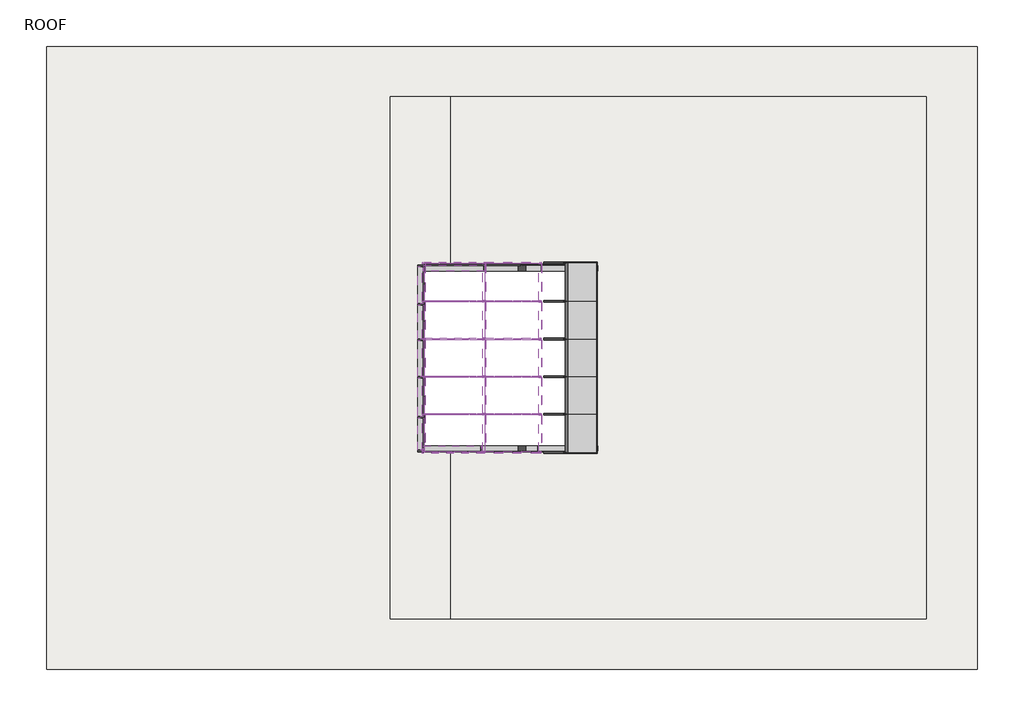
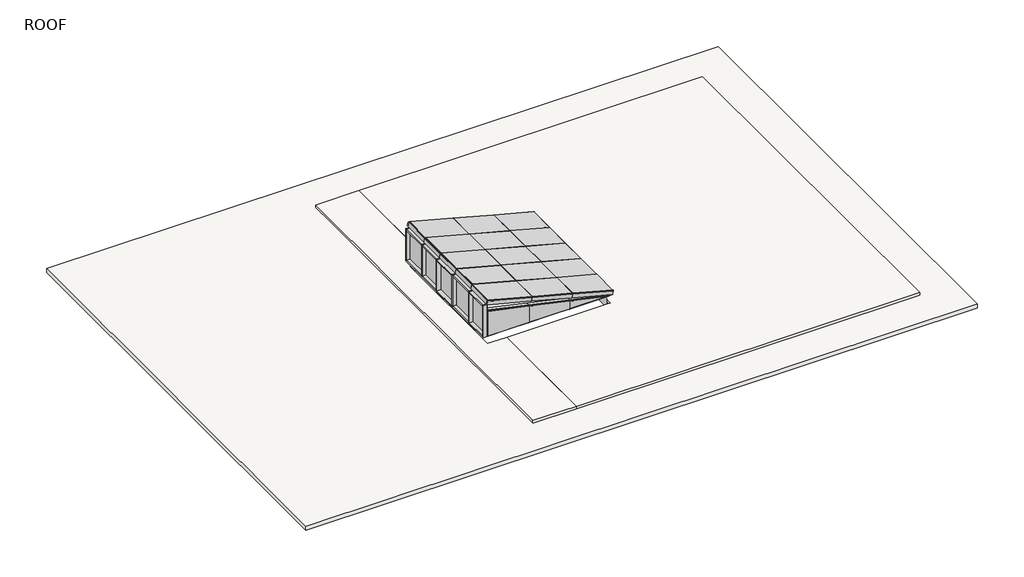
# One storey, incomplete: 73 members, 30 plates, 2 roofs, 1 slab.
"""IFC4 building model written with IfcOpenShell, lengths in millimetres."""

from ifc_helpers import new_model, si_unit, frame, origin, place, context, project, spatial, polyline, outline, extrude, transform, mapped, element, save
from components import rectangular_mullion_d7dfc533, rectangular_mullion_3b51f4c8, rectangular_mullion_2714cfa0, rectangular_mullion_174cf47c, rectangular_mullion_a48a72ba, rectangular_mullion_c04b954a, rectangular_mullion_090d5db9, rectangular_mullion_471c2e8e, rectangular_mullion_5041c5a1, rectangular_mullion_72d92243, rectangular_mullion_75a59cfc, rectangular_mullion_d6b43637, rectangular_mullion_770be2c8, rectangular_mullion_9435135d, rectangular_mullion_52c3b131, rectangular_mullion_70250a05, rectangular_mullion_7b2152c2, rectangular_mullion_dff13a2a, rectangular_mullion_6b22e22a, rectangular_mullion_3c99d2be, rectangular_mullion_39315b43, rectangular_mullion_9168f299, rectangular_mullion_25797d0b, rectangular_mullion_bcc6d2c9, rectangular_mullion_47d3db4b, rectangular_mullion_f2104aaf, rectangular_mullion_8bc0198a, rectangular_mullion_b953cf81, rectangular_mullion_a3971e02, rectangular_mullion_6e50a142, rectangular_mullion_1dcdddb2, rectangular_mullion_462ec1b4, rectangular_mullion_9d721f76, rectangular_mullion_58bc6a44, rectangular_mullion_1008c914, rectangular_mullion_0d3e171c, rectangular_mullion_66dead4a, rectangular_mullion_82fb6bf8, rectangular_mullion_a33d8cd0, rectangular_mullion_39d5cb80, rectangular_mullion_8cb9c72c, rectangular_mullion_af526003, rectangular_mullion_779ff2c7, rectangular_mullion_bb15ac4e, rectangular_mullion_5aa9732d, member_f8418f2c, plate_097b6727, plate_829ba8d5, plate_46c0a22a, system_panel_glazed_f3fc53cd, system_panel_glazed_203c5cc8, system_panel_glazed_afc678b7, system_panel_glazed_d7387deb, system_panel_glazed_5c022f44, system_panel_glazed_7354c97c, system_panel_glazed_5e03f015, system_panel_glazed_cc2dea4c, system_panel_glazed_e29575fd, system_panel_glazed_f8e5df00, system_panel_glazed_2d2b32e8, system_panel_glazed_9fcf10f8, system_panel_glazed_1304c4ac, system_panel_glazed_a94a4bbf, system_panel_glazed_785aafc2, system_panel_glazed_bdd28e3d, system_panel_glazed_228430bb, system_panel_glazed_6b07ec01, system_panel_glazed_3595c73b, system_panel_glazed_9da04d51

model = new_model("IFC4")

# Units and contexts
model_context = context("Model", 3, world=origin())
ifc_project = project(units=[si_unit("LENGTHUNIT", "METRE", prefix="MILLI")], contexts=[model_context])

# Site, building, storey
site = spatial("IfcSite", under=ifc_project)
building = spatial("IfcBuilding", under=site)
storey = spatial("IfcBuildingStorey", under=building, Name="ROOF", Elevation=24155.4)

# Members
placement = place(None, origin())
rectangular_mullion_shape = rectangular_mullion_d7dfc533(model_context)
element("IfcMember", 1, ObjectType="Rectangular Mullion : 2 1/2\" x 8\" - Capless", at=placement, inside=storey, context=model_context, shape_type="MappedRepresentation", body=[
    mapped(rectangular_mullion_shape, transform((-20014.568154, -9087.3613175, 24726.9), x_axis=(0.0, 0.0, -1.0), y_axis=(0.0, -1.0, 0.0), z_axis=(-1.0, 0.0, 0.0))),
])
rectangular_mullion_2_shape = rectangular_mullion_3b51f4c8(model_context)
element("IfcMember", 2, ObjectType="Rectangular Mullion : 2 1/2\" x 8\" - Capless", at=placement, inside=storey, context=model_context, shape_type="MappedRepresentation", body=[
    mapped(rectangular_mullion_2_shape, transform((-17802.6040182, -16563.4101345, 25619.1822452), x_axis=(0.0, -1.0, 0.0), y_axis=(-0.25469056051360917, 0.0, -0.9670226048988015), z_axis=(0.9670226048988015, 0.0, -0.25469056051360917))),
])
rectangular_mullion_3_shape = rectangular_mullion_2714cfa0(model_context)
element("IfcMember", 3, ObjectType="Rectangular Mullion : 2 1/2\" x 8\" - Capless", at=placement, inside=storey, context=model_context, shape_type="MappedRepresentation", body=[
    mapped(rectangular_mullion_3_shape, transform((-22467.4849596, -9087.3613175, 24726.9), x_axis=(0.0, 0.0, -1.0), y_axis=(0.0, -1.0, 0.0), z_axis=(-1.0, 0.0, 0.0))),
])
rectangular_mullion_4_shape = rectangular_mullion_174cf47c(model_context)
element("IfcMember", 4, ObjectType="Rectangular Mullion : 2 1/2\" x 8\" - Capless", at=placement, inside=storey, context=model_context, shape_type="MappedRepresentation", body=[
    mapped(rectangular_mullion_4_shape, transform((-22467.4849596, -15164.3113175, 26593.8), x_axis=(0.0, 0.0, 1.0), y_axis=(1.0, 0.0, 0.0), z_axis=(0.0, 1.0, 0.0))),
])
rectangular_mullion_5_shape = rectangular_mullion_a48a72ba(model_context)
element("IfcMember", 5, ObjectType="Rectangular Mullion : 2 1/2\" x 8\" - Capless", at=placement, inside=storey, context=model_context, shape_type="MappedRepresentation", body=[
    mapped(rectangular_mullion_5_shape, transform((-22467.4849596, -13569.1913175, 26593.8), x_axis=(0.0, 0.0, 1.0), y_axis=(1.0, 0.0, 0.0), z_axis=(0.0, 1.0, 0.0))),
])
rectangular_mullion_6_shape = rectangular_mullion_c04b954a(model_context)
element("IfcMember", 6, ObjectType="Rectangular Mullion : 2 1/2\" x 8\" - Capless", at=placement, inside=storey, context=model_context, shape_type="MappedRepresentation", body=[
    mapped(rectangular_mullion_6_shape, transform((-22467.4849596, -12085.8313175, 26593.8), x_axis=(0.0, 0.0, 1.0), y_axis=(1.0, 0.0, 0.0), z_axis=(0.0, 1.0, 0.0))),
])
rectangular_mullion_7_shape = rectangular_mullion_090d5db9(model_context)
element("IfcMember", 7, ObjectType="Rectangular Mullion : 2 1/2\" x 8\" - Capless", at=placement, inside=storey, context=model_context, shape_type="MappedRepresentation", body=[
    mapped(rectangular_mullion_7_shape, transform((-22467.4849596, -10676.9779841, 26593.8), x_axis=(0.0, 0.0, 1.0), y_axis=(1.0, 0.0, 0.0), z_axis=(0.0, 1.0, 0.0))),
])
rectangular_mullion_8_shape = rectangular_mullion_471c2e8e(model_context)
element("IfcMember", 8, ObjectType="Rectangular Mullion : 2 1/2\" x 8\" - Capless", at=placement, inside=storey, context=model_context, shape_type="MappedRepresentation", body=[
    mapped(rectangular_mullion_8_shape, transform((-22467.4849596, -9150.8613175, 26593.8), x_axis=(0.0, 0.0, 1.0), y_axis=(1.0, 0.0, 0.0), z_axis=(0.0, 1.0, 0.0))),
])
rectangular_mullion_9_shape = rectangular_mullion_5041c5a1(model_context)
element("IfcMember", 9, ObjectType="Rectangular Mullion : 2 1/2\" x 8\" - Capless", at=placement, inside=storey, context=model_context, shape_type="MappedRepresentation", body=[
    mapped(rectangular_mullion_9_shape, transform((-22467.4849596, -15100.8113175, 24726.9), x_axis=(0.0, 0.0, -1.0), y_axis=(1.0, 0.0, 0.0), z_axis=(0.0, -1.0, 0.0))),
])
rectangular_mullion_10_shape = rectangular_mullion_72d92243(model_context)
element("IfcMember", 10, ObjectType="Rectangular Mullion : 2 1/2\" x 8\" - Capless", at=placement, inside=storey, context=model_context, shape_type="MappedRepresentation", body=[
    mapped(rectangular_mullion_10_shape, transform((-22467.4849596, -13505.6913175, 24726.9), x_axis=(0.0, 0.0, -1.0), y_axis=(1.0, 0.0, 0.0), z_axis=(0.0, -1.0, 0.0))),
])
rectangular_mullion_11_shape = rectangular_mullion_75a59cfc(model_context)
element("IfcMember", 11, ObjectType="Rectangular Mullion : 2 1/2\" x 8\" - Capless", at=placement, inside=storey, context=model_context, shape_type="MappedRepresentation", body=[
    mapped(rectangular_mullion_11_shape, transform((-22467.4849596, -12022.3313175, 24726.9), x_axis=(0.0, 0.0, -1.0), y_axis=(1.0, 0.0, 0.0), z_axis=(0.0, -1.0, 0.0))),
])
rectangular_mullion_12_shape = rectangular_mullion_d6b43637(model_context)
element("IfcMember", 12, ObjectType="Rectangular Mullion : 2 1/2\" x 8\" - Capless", at=placement, inside=storey, context=model_context, shape_type="MappedRepresentation", body=[
    mapped(rectangular_mullion_12_shape, transform((-22467.4849596, -10613.4779841, 24726.9), x_axis=(0.0, 0.0, -1.0), y_axis=(1.0, 0.0, 0.0), z_axis=(0.0, -1.0, 0.0))),
])
rectangular_mullion_13_shape = rectangular_mullion_770be2c8(model_context)
element("IfcMember", 13, ObjectType="Rectangular Mullion : 2 1/2\" x 8\" - Capless", at=placement, inside=storey, context=model_context, shape_type="MappedRepresentation", body=[
    mapped(rectangular_mullion_13_shape, transform((-22467.4849596, -16440.6613175, 24726.9), x_axis=(0.0, 0.0, -1.0), y_axis=(1.0, 0.0, 0.0), z_axis=(0.0, -1.0, 0.0))),
])
rectangular_mullion_14_shape = rectangular_mullion_9435135d(model_context)
element("IfcMember", 14, ObjectType="Rectangular Mullion : 2 1/2\" x 8\" - Capless", at=placement, inside=storey, context=model_context, shape_type="MappedRepresentation", body=[
    mapped(rectangular_mullion_14_shape, transform((-20033.1877113, -15016.6738171, 26206.6644904), x_axis=(0.0, 1.0, 0.0), y_axis=(-0.25469056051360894, 0.0, -0.9670226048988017), z_axis=(-0.9670226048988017, 0.0, 0.25469056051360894))),
])
element("IfcMember", 15, ObjectType="Rectangular Mullion : 2 1/2\" x 8\" - Capless", at=placement, inside=storey, context=model_context, shape_type="MappedRepresentation", body=[
    mapped(rectangular_mullion_14_shape, transform((-20033.1877113, -13520.8960393, 26206.6644904), x_axis=(0.0, 1.0, 0.0), y_axis=(-0.25469056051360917, 0.0, -0.9670226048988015), z_axis=(-0.9670226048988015, 0.0, 0.25469056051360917))),
])
element("IfcMember", 16, ObjectType="Rectangular Mullion : 2 1/2\" x 8\" - Capless", at=placement, inside=storey, context=model_context, shape_type="MappedRepresentation", body=[
    mapped(rectangular_mullion_14_shape, transform((-20033.1877113, -12025.1182615, 26206.6644904), x_axis=(0.0, 1.0, 0.0), y_axis=(-0.25469056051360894, 0.0, -0.9670226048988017), z_axis=(-0.9670226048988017, 0.0, 0.25469056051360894))),
])
element("IfcMember", 17, ObjectType="Rectangular Mullion : 2 1/2\" x 8\" - Capless", at=placement, inside=storey, context=model_context, shape_type="MappedRepresentation", body=[
    mapped(rectangular_mullion_14_shape, transform((-20033.1877113, -10529.3404837, 26206.6644904), x_axis=(0.0, 1.0, 0.0), y_axis=(-0.25469056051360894, 0.0, -0.9670226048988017), z_axis=(-0.9670226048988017, 0.0, 0.25469056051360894))),
])
rectangular_mullion_15_shape = rectangular_mullion_52c3b131(model_context)
element("IfcMember", 18, ObjectType="Rectangular Mullion : 2 1/2\" x 8\" - Capless", at=placement, inside=storey, context=model_context, shape_type="MappedRepresentation", body=[
    mapped(rectangular_mullion_15_shape, transform((-17802.6040182, -15016.6738171, 25619.1822452), x_axis=(0.0, 1.0, 0.0), y_axis=(-0.2546905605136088, 0.0, -0.9670226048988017), z_axis=(-0.9670226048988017, 0.0, 0.2546905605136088))),
])
element("IfcMember", 19, ObjectType="Rectangular Mullion : 2 1/2\" x 8\" - Capless", at=placement, inside=storey, context=model_context, shape_type="MappedRepresentation", body=[
    mapped(rectangular_mullion_15_shape, transform((-17802.6040182, -13520.8960393, 25619.1822452), x_axis=(0.0, 1.0, 0.0), y_axis=(-0.254690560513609, 0.0, -0.9670226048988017), z_axis=(-0.9670226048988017, 0.0, 0.254690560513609))),
])
element("IfcMember", 20, ObjectType="Rectangular Mullion : 2 1/2\" x 8\" - Capless", at=placement, inside=storey, context=model_context, shape_type="MappedRepresentation", body=[
    mapped(rectangular_mullion_15_shape, transform((-17802.6040182, -12025.1182615, 25619.1822452), x_axis=(0.0, 1.0, 0.0), y_axis=(-0.25469056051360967, 0.0, -0.9670226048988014), z_axis=(-0.9670226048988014, 0.0, 0.25469056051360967))),
])
element("IfcMember", 21, ObjectType="Rectangular Mullion : 2 1/2\" x 8\" - Capless", at=placement, inside=storey, context=model_context, shape_type="MappedRepresentation", body=[
    mapped(rectangular_mullion_15_shape, transform((-17802.6040182, -10529.3404837, 25619.1822452), x_axis=(0.0, 1.0, 0.0), y_axis=(-0.2546905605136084, 0.0, -0.9670226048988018), z_axis=(-0.9670226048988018, 0.0, 0.2546905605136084))),
])
element("IfcMember", 22, ObjectType="Rectangular Mullion : 2 1/2\" x 8\" - Capless", at=placement, inside=storey, context=model_context, shape_type="MappedRepresentation", body=[
    mapped(rectangular_mullion_2_shape, transform((-15572.0203251, -16563.4101345, 25031.7), x_axis=(0.0, -1.0, 0.0), y_axis=(-0.25469056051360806, 0.0, -0.9670226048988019), z_axis=(0.9670226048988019, 0.0, -0.25469056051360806))),
])
rectangular_mullion_16_shape = rectangular_mullion_70250a05(model_context)
element("IfcMember", 23, ObjectType="Rectangular Mullion : 2 1/2\" x 8\" - Capless", at=placement, inside=storey, context=model_context, shape_type="MappedRepresentation", body=[
    mapped(rectangular_mullion_16_shape, transform((-20033.1877113, -10497.5904837, 26206.6644904), x_axis=(-0.9670226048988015, 0.0, 0.254690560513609), y_axis=(-0.254690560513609, 0.0, -0.9670226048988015), z_axis=(0.0, -1.0, 0.0))),
])
element("IfcMember", 24, ObjectType="Rectangular Mullion : 2 1/2\" x 8\" - Capless", at=placement, inside=storey, context=model_context, shape_type="MappedRepresentation", body=[
    mapped(rectangular_mullion_16_shape, transform((-17802.6040182, -10497.5904837, 25619.1822452), x_axis=(-0.9670226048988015, 0.0, 0.254690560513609), y_axis=(-0.254690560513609, 0.0, -0.9670226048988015), z_axis=(0.0, -1.0, 0.0))),
])
rectangular_mullion_17_shape = rectangular_mullion_7b2152c2(model_context)
element("IfcMember", 25, ObjectType="Rectangular Mullion : 2 1/2\" x 8\" - Capless", at=placement, inside=storey, context=model_context, shape_type="MappedRepresentation", body=[
    mapped(rectangular_mullion_17_shape, transform((-22467.4849596, -10529.3404837, 26847.8), x_axis=(-0.9670226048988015, 0.0, 0.254690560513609), y_axis=(-0.254690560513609, 0.0, -0.9670226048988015), z_axis=(0.0, -1.0, 0.0))),
])
rectangular_mullion_18_shape = rectangular_mullion_dff13a2a(model_context)
element("IfcMember", 26, ObjectType="Rectangular Mullion : 2 1/2\" x 8\" - Capless", at=placement, inside=storey, context=model_context, shape_type="MappedRepresentation", body=[
    mapped(rectangular_mullion_18_shape, transform((-15572.0203251, -9034.9738171, 25031.7), x_axis=(0.9670226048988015, 0.0, -0.254690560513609), y_axis=(-0.254690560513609, 0.0, -0.9670226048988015), z_axis=(0.0, 1.0, 0.0))),
])
rectangular_mullion_19_shape = rectangular_mullion_6b22e22a(model_context)
element("IfcMember", 27, ObjectType="Rectangular Mullion : 2 1/2\" x 8\" - Capless", at=placement, inside=storey, context=model_context, shape_type="MappedRepresentation", body=[
    mapped(rectangular_mullion_19_shape, transform((-17802.6040182, -8971.4738171, 25619.1822452), x_axis=(0.0, 1.0, 0.0), y_axis=(-0.25469056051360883, 0.0, -0.9670226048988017), z_axis=(-0.9670226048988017, 0.0, 0.25469056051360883))),
])
element("IfcMember", 28, ObjectType="Rectangular Mullion : 2 1/2\" x 8\" - Capless", at=placement, inside=storey, context=model_context, shape_type="MappedRepresentation", body=[
    mapped(rectangular_mullion_19_shape, transform((-20033.1877113, -8971.4738171, 26206.6644904), x_axis=(0.0, 1.0, 0.0), y_axis=(-0.25469056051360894, 0.0, -0.9670226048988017), z_axis=(-0.9670226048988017, 0.0, 0.25469056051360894))),
])
rectangular_mullion_20_shape = rectangular_mullion_3c99d2be(model_context)
element("IfcMember", 29, ObjectType="Rectangular Mullion : 2 1/2\" x 8\" - Capless", at=placement, inside=storey, context=model_context, shape_type="MappedRepresentation", body=[
    mapped(rectangular_mullion_20_shape, transform((-20046.318154, -9087.3613175, 24726.9), x_axis=(1.0, 0.0, 0.0), y_axis=(0.0, -1.0, 0.0), z_axis=(0.0, 0.0, -1.0))),
])
rectangular_mullion_21_shape = rectangular_mullion_39315b43(model_context)
element("IfcMember", 30, ObjectType="Rectangular Mullion : 2 1/2\" x 8\" - Capless", at=placement, inside=storey, context=model_context, shape_type="MappedRepresentation", body=[
    mapped(rectangular_mullion_21_shape, transform((-17805.6765568, -9087.3613175, 24726.9), x_axis=(1.0, 0.0, 0.0), y_axis=(0.0, -1.0, 0.0), z_axis=(0.0, 0.0, -1.0))),
])
rectangular_mullion_22_shape = rectangular_mullion_9168f299(model_context)
element("IfcMember", 31, ObjectType="Rectangular Mullion : 2 1/2\" x 8\" - Capless", at=placement, inside=storey, context=model_context, shape_type="MappedRepresentation", body=[
    mapped(rectangular_mullion_22_shape, transform((-17773.9265568, -9087.3613175, 24726.9), x_axis=(0.0, 0.0, -1.0), y_axis=(0.0, -1.0, 0.0), z_axis=(-1.0, 0.0, 0.0))),
])
rectangular_mullion_23_shape = rectangular_mullion_25797d0b(model_context)
element("IfcMember", 32, ObjectType="Rectangular Mullion : 2 1/2\" x 8\" - Capless", at=placement, inside=storey, context=model_context, shape_type="MappedRepresentation", body=[
    mapped(rectangular_mullion_23_shape, transform((-17805.6765568, -9087.3613175, 25219.5525683), x_axis=(0.21474179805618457, 0.0, 0.976670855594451), y_axis=(0.0, -1.0, 0.0), z_axis=(0.9766708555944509, 0.0, -0.21474179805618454))),
])
rectangular_mullion_24_shape = rectangular_mullion_bcc6d2c9(model_context)
element("IfcMember", 33, ObjectType="Rectangular Mullion : 2 1/2\" x 8\" - Capless", at=placement, inside=storey, context=model_context, shape_type="MappedRepresentation", body=[
    mapped(rectangular_mullion_24_shape, transform((-20046.318154, -9087.3613175, 25712.2051366), x_axis=(0.2147417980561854, 0.0, 0.9766708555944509), y_axis=(0.0, -1.0, 0.0), z_axis=(0.9766708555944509, 0.0, -0.2147417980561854))),
])
rectangular_mullion_25_shape = rectangular_mullion_47d3db4b(model_context)
element("IfcMember", 34, ObjectType="Rectangular Mullion : 2 1/2\" x 8\" - Capless", at=placement, inside=storey, context=model_context, shape_type="MappedRepresentation", body=[
    mapped(rectangular_mullion_25_shape, transform((-15565.0349596, -9087.3613175, 24726.9), x_axis=(0.21474179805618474, 0.0, 0.9766708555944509), y_axis=(0.0, -1.0, 0.0), z_axis=(0.9766708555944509, 0.0, -0.21474179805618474))),
])
rectangular_mullion_26_shape = rectangular_mullion_f2104aaf(model_context)
element("IfcMember", 35, ObjectType="Rectangular Mullion : 2 1/2\" x 8\" - Capless", at=placement, inside=storey, context=model_context, shape_type="MappedRepresentation", body=[
    mapped(rectangular_mullion_26_shape, transform((-20033.1877113, -11993.3682615, 26206.6644904), x_axis=(-0.9670226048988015, 0.0, 0.254690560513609), y_axis=(-0.254690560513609, 0.0, -0.9670226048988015), z_axis=(0.0, -1.0, 0.0))),
])
element("IfcMember", 36, ObjectType="Rectangular Mullion : 2 1/2\" x 8\" - Capless", at=placement, inside=storey, context=model_context, shape_type="MappedRepresentation", body=[
    mapped(rectangular_mullion_26_shape, transform((-17802.6040182, -11993.3682615, 25619.1822452), x_axis=(-0.9670226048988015, 0.0, 0.254690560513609), y_axis=(-0.254690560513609, 0.0, -0.9670226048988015), z_axis=(0.0, -1.0, 0.0))),
])
element("IfcMember", 37, ObjectType="Rectangular Mullion : 2 1/2\" x 8\" - Capless", at=placement, inside=storey, context=model_context, shape_type="MappedRepresentation", body=[
    mapped(rectangular_mullion_26_shape, transform((-20033.1877113, -13489.1460393, 26206.6644904), x_axis=(-0.9670226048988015, 0.0, 0.254690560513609), y_axis=(-0.254690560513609, 0.0, -0.9670226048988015), z_axis=(0.0, -1.0, 0.0))),
])
element("IfcMember", 38, ObjectType="Rectangular Mullion : 2 1/2\" x 8\" - Capless", at=placement, inside=storey, context=model_context, shape_type="MappedRepresentation", body=[
    mapped(rectangular_mullion_26_shape, transform((-17802.6040182, -13489.1460393, 25619.1822452), x_axis=(-0.9670226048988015, 0.0, 0.254690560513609), y_axis=(-0.254690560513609, 0.0, -0.9670226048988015), z_axis=(0.0, -1.0, 0.0))),
])
element("IfcMember", 39, ObjectType="Rectangular Mullion : 2 1/2\" x 8\" - Capless", at=placement, inside=storey, context=model_context, shape_type="MappedRepresentation", body=[
    mapped(rectangular_mullion_26_shape, transform((-20033.1877113, -14984.9238171, 26206.6644904), x_axis=(-0.9670226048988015, 0.0, 0.254690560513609), y_axis=(-0.254690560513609, 0.0, -0.9670226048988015), z_axis=(0.0, -1.0, 0.0))),
])
element("IfcMember", 40, ObjectType="Rectangular Mullion : 2 1/2\" x 8\" - Capless", at=placement, inside=storey, context=model_context, shape_type="MappedRepresentation", body=[
    mapped(rectangular_mullion_26_shape, transform((-17802.6040182, -14984.9238171, 25619.1822452), x_axis=(-0.9670226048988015, 0.0, 0.254690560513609), y_axis=(-0.254690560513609, 0.0, -0.9670226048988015), z_axis=(0.0, -1.0, 0.0))),
])
rectangular_mullion_27_shape = rectangular_mullion_8bc0198a(model_context)
element("IfcMember", 41, ObjectType="Rectangular Mullion : 2 1/2\" x 8\" - Capless", at=placement, inside=storey, context=model_context, shape_type="MappedRepresentation", body=[
    mapped(rectangular_mullion_27_shape, transform((-22467.4849596, -12025.1182615, 26847.8), x_axis=(-0.9670226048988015, 0.0, 0.254690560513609), y_axis=(-0.254690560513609, 0.0, -0.9670226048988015), z_axis=(0.0, -1.0, 0.0))),
])
element("IfcMember", 42, ObjectType="Rectangular Mullion : 2 1/2\" x 8\" - Capless", at=placement, inside=storey, context=model_context, shape_type="MappedRepresentation", body=[
    mapped(rectangular_mullion_27_shape, transform((-22467.4849596, -13520.8960393, 26847.8), x_axis=(-0.9670226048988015, 0.0, 0.254690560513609), y_axis=(-0.254690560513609, 0.0, -0.9670226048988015), z_axis=(0.0, -1.0, 0.0))),
])
element("IfcMember", 43, ObjectType="Rectangular Mullion : 2 1/2\" x 8\" - Capless", at=placement, inside=storey, context=model_context, shape_type="MappedRepresentation", body=[
    mapped(rectangular_mullion_27_shape, transform((-22467.4849596, -15016.6738171, 26847.8), x_axis=(-0.9670226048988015, 0.0, 0.254690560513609), y_axis=(-0.254690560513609, 0.0, -0.9670226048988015), z_axis=(0.0, -1.0, 0.0))),
])
rectangular_mullion_28_shape = rectangular_mullion_b953cf81(model_context)
element("IfcMember", 44, ObjectType="Rectangular Mullion : 2 1/2\" x 8\" - Capless", at=placement, inside=storey, context=model_context, shape_type="MappedRepresentation", body=[
    mapped(rectangular_mullion_28_shape, transform((-15572.0203251, -13520.8960393, 25031.7), x_axis=(0.9670226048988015, 0.0, -0.254690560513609), y_axis=(-0.254690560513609, 0.0, -0.9670226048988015), z_axis=(0.0, 1.0, 0.0))),
])
element("IfcMember", 45, ObjectType="Rectangular Mullion : 2 1/2\" x 8\" - Capless", at=placement, inside=storey, context=model_context, shape_type="MappedRepresentation", body=[
    mapped(rectangular_mullion_28_shape, transform((-15572.0203251, -12025.1182615, 25031.7), x_axis=(0.9670226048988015, 0.0, -0.254690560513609), y_axis=(-0.254690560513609, 0.0, -0.9670226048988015), z_axis=(0.0, 1.0, 0.0))),
])
element("IfcMember", 46, ObjectType="Rectangular Mullion : 2 1/2\" x 8\" - Capless", at=placement, inside=storey, context=model_context, shape_type="MappedRepresentation", body=[
    mapped(rectangular_mullion_28_shape, transform((-15572.0203251, -10529.3404837, 25031.7), x_axis=(0.9670226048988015, 0.0, -0.254690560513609), y_axis=(-0.254690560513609, 0.0, -0.9670226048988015), z_axis=(0.0, 1.0, 0.0))),
])
rectangular_mullion_29_shape = rectangular_mullion_a3971e02(model_context)
element("IfcMember", 47, ObjectType="Rectangular Mullion : 2 1/2\" x 8\" - Capless", at=placement, inside=storey, context=model_context, shape_type="MappedRepresentation", body=[
    mapped(rectangular_mullion_29_shape, transform((-22467.4849596, -10645.2279841, 24726.9), x_axis=(0.0, 1.0, 0.0), y_axis=(1.0, 0.0, 0.0), z_axis=(0.0, 0.0, -1.0))),
])
element("IfcMember", 48, ObjectType="Rectangular Mullion : 2 1/2\" x 8\" - Capless", at=placement, inside=storey, context=model_context, shape_type="MappedRepresentation", body=[
    mapped(rectangular_mullion_29_shape, transform((-22467.4849596, -12054.0813175, 24726.9), x_axis=(0.0, 1.0, 0.0), y_axis=(1.0, 0.0, 0.0), z_axis=(0.0, 0.0, -1.0))),
])
element("IfcMember", 49, ObjectType="Rectangular Mullion : 2 1/2\" x 8\" - Capless", at=placement, inside=storey, context=model_context, shape_type="MappedRepresentation", body=[
    mapped(rectangular_mullion_29_shape, transform((-22467.4849596, -13537.4413175, 24726.9), x_axis=(0.0, 1.0, 0.0), y_axis=(1.0, 0.0, 0.0), z_axis=(0.0, 0.0, -1.0))),
])
element("IfcMember", 50, ObjectType="Rectangular Mullion : 2 1/2\" x 8\" - Capless", at=placement, inside=storey, context=model_context, shape_type="MappedRepresentation", body=[
    mapped(rectangular_mullion_29_shape, transform((-22467.4849596, -15132.5613175, 24726.9), x_axis=(0.0, 1.0, 0.0), y_axis=(1.0, 0.0, 0.0), z_axis=(0.0, 0.0, -1.0))),
])
rectangular_mullion_30_shape = rectangular_mullion_6e50a142(model_context)
element("IfcMember", 51, ObjectType="Rectangular Mullion : 2 1/2\" x 8\" - Capless", at=placement, inside=storey, context=model_context, shape_type="MappedRepresentation", body=[
    mapped(rectangular_mullion_30_shape, transform((-22467.4849596, -16504.1613175, 26593.8), x_axis=(0.0, -1.0, 0.0), y_axis=(1.0, 0.0, 0.0), z_axis=(0.0, 0.0, 1.0))),
])
rectangular_mullion_31_shape = rectangular_mullion_1dcdddb2(model_context)
element("IfcMember", 52, ObjectType="Rectangular Mullion : 2 1/2\" x 8\" - Capless", at=placement, inside=storey, context=model_context, shape_type="MappedRepresentation", body=[
    mapped(rectangular_mullion_31_shape, transform((-22467.4849596, -9087.3613175, 24726.9), x_axis=(0.0, 1.0, 0.0), y_axis=(1.0, 0.0, 0.0), z_axis=(0.0, 0.0, -1.0))),
])
rectangular_mullion_32_shape = rectangular_mullion_462ec1b4(model_context)
element("IfcMember", 53, ObjectType="Rectangular Mullion : 2 1/2\" x 8\" - Capless", at=placement, inside=storey, context=model_context, shape_type="MappedRepresentation", body=[
    mapped(rectangular_mullion_32_shape, transform((-17913.1246759, -16504.1613175, 24726.9), x_axis=(0.0, 0.0, -1.0), y_axis=(0.0, -1.0, 0.0), z_axis=(-1.0, 0.0, 0.0))),
])
rectangular_mullion_33_shape = rectangular_mullion_9d721f76(model_context)
element("IfcMember", 54, ObjectType="Rectangular Mullion : 2 1/2\" x 8\" - Capless", at=placement, inside=storey, context=model_context, shape_type="MappedRepresentation", body=[
    mapped(rectangular_mullion_33_shape, transform((-20179.5366035, -16504.1613175, 24726.9), x_axis=(1.0, 0.0, 0.0), y_axis=(0.0, -1.0, 0.0), z_axis=(0.0, 0.0, -1.0))),
])
rectangular_mullion_34_shape = rectangular_mullion_58bc6a44(model_context)
element("IfcMember", 55, ObjectType="Rectangular Mullion : 2 1/2\" x 8\" - Capless", at=placement, inside=storey, context=model_context, shape_type="MappedRepresentation", body=[
    mapped(rectangular_mullion_34_shape, transform((-20179.5366035, -16504.1613175, 25741.4960376), x_axis=(0.21474179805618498, 0.0, 0.9766708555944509), y_axis=(0.0, -1.0, 0.0), z_axis=(0.9766708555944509, 0.0, -0.21474179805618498))),
])
rectangular_mullion_35_shape = rectangular_mullion_1008c914(model_context)
element("IfcMember", 56, ObjectType="Rectangular Mullion : 2 1/2\" x 8\" - Capless", at=placement, inside=storey, context=model_context, shape_type="MappedRepresentation", body=[
    mapped(rectangular_mullion_35_shape, transform((-17944.8746759, -16504.1613175, 25250.1582265), x_axis=(0.2147417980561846, 0.0, 0.976670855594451), y_axis=(0.0, -1.0, 0.0), z_axis=(0.9766708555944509, 0.0, -0.21474179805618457))),
])
rectangular_mullion_36_shape = rectangular_mullion_0d3e171c(model_context)
element("IfcMember", 57, ObjectType="Rectangular Mullion : 2 1/2\" x 8\" - Capless", at=placement, inside=storey, context=model_context, shape_type="MappedRepresentation", body=[
    mapped(rectangular_mullion_36_shape, transform((-15565.0349596, -16504.1613175, 24726.9), x_axis=(0.21474179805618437, 0.0, 0.976670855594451), y_axis=(0.0, -1.0, 0.0), z_axis=(0.9766708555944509, 0.0, -0.21474179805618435))),
])
rectangular_mullion_37_shape = rectangular_mullion_66dead4a(model_context)
element("IfcMember", 58, ObjectType="Rectangular Mullion : 2 1/2\" x 8\" - Capless", at=placement, inside=storey, context=model_context, shape_type="MappedRepresentation", body=[
    mapped(rectangular_mullion_37_shape, transform((-20147.7866035, -16504.1613175, 24726.9), x_axis=(0.0, 0.0, -1.0), y_axis=(0.0, -1.0, 0.0), z_axis=(-1.0, 0.0, 0.0))),
])
rectangular_mullion_38_shape = rectangular_mullion_82fb6bf8(model_context)
element("IfcMember", 59, ObjectType="Rectangular Mullion : 2 1/2\" x 8\" - Capless", at=placement, inside=storey, context=model_context, shape_type="MappedRepresentation", body=[
    mapped(rectangular_mullion_38_shape, transform((-22467.4849596, -16504.1613175, 24726.9), x_axis=(0.0, 0.0, -1.0), y_axis=(0.0, -1.0, 0.0), z_axis=(-1.0, 0.0, 0.0))),
])
rectangular_mullion_39_shape = rectangular_mullion_a33d8cd0(model_context)
element("IfcMember", 60, ObjectType="Rectangular Mullion : 2 1/2\" x 8\" - Capless", at=placement, inside=storey, context=model_context, shape_type="MappedRepresentation", body=[
    mapped(rectangular_mullion_39_shape, transform((-20033.1877113, -16499.9101345, 26206.6644904), x_axis=(-0.9670226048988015, 0.0, 0.254690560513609), y_axis=(-0.254690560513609, 0.0, -0.9670226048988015), z_axis=(0.0, -1.0, 0.0))),
])
element("IfcMember", 61, ObjectType="Rectangular Mullion : 2 1/2\" x 8\" - Capless", at=placement, inside=storey, context=model_context, shape_type="MappedRepresentation", body=[
    mapped(rectangular_mullion_39_shape, transform((-17802.6040182, -16499.9101345, 25619.1822452), x_axis=(-0.9670226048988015, 0.0, 0.254690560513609), y_axis=(-0.254690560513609, 0.0, -0.9670226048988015), z_axis=(0.0, -1.0, 0.0))),
])
rectangular_mullion_40_shape = rectangular_mullion_39d5cb80(model_context)
element("IfcMember", 62, ObjectType="Rectangular Mullion : 2 1/2\" x 8\" - Capless", at=placement, inside=storey, context=model_context, shape_type="MappedRepresentation", body=[
    mapped(rectangular_mullion_40_shape, transform((-22467.4849596, -16499.9101345, 26847.8), x_axis=(-0.9670226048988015, 0.0, 0.254690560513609), y_axis=(-0.254690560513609, 0.0, -0.9670226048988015), z_axis=(0.0, -1.0, 0.0))),
])
rectangular_mullion_41_shape = rectangular_mullion_8cb9c72c(model_context)
element("IfcMember", 63, ObjectType="Rectangular Mullion : 2 1/2\" x 8\" - Capless", at=placement, inside=storey, context=model_context, shape_type="MappedRepresentation", body=[
    mapped(rectangular_mullion_41_shape, transform((-15572.0203251, -15016.6738171, 25031.7), x_axis=(0.9670226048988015, 0.0, -0.254690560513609), y_axis=(-0.254690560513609, 0.0, -0.9670226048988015), z_axis=(0.0, 1.0, 0.0))),
])
rectangular_mullion_42_shape = rectangular_mullion_af526003(model_context)
element("IfcMember", 64, ObjectType="Rectangular Mullion : 2 1/2\" x 8\" - Capless", at=placement, inside=storey, context=model_context, shape_type="MappedRepresentation", body=[
    mapped(rectangular_mullion_42_shape, transform((-22406.0790242, -15016.6738171, 26831.6271494), x_axis=(0.0, 1.0, 0.0), y_axis=(-0.25469056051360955, 0.0, -0.9670226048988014), z_axis=(-0.9670226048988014, 0.0, 0.25469056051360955))),
])
element("IfcMember", 65, ObjectType="Rectangular Mullion : 2 1/2\" x 8\" - Capless", at=placement, inside=storey, context=model_context, shape_type="MappedRepresentation", body=[
    mapped(rectangular_mullion_42_shape, transform((-22406.0790242, -13520.8960393, 26831.6271494), x_axis=(0.0, 1.0, 0.0), y_axis=(-0.2546905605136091, 0.0, -0.9670226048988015), z_axis=(-0.9670226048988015, 0.0, 0.2546905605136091))),
])
element("IfcMember", 66, ObjectType="Rectangular Mullion : 2 1/2\" x 8\" - Capless", at=placement, inside=storey, context=model_context, shape_type="MappedRepresentation", body=[
    mapped(rectangular_mullion_42_shape, transform((-22406.0790242, -12025.1182615, 26831.6271494), x_axis=(0.0, 1.0, 0.0), y_axis=(-0.2546905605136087, 0.0, -0.9670226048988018), z_axis=(-0.9670226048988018, 0.0, 0.2546905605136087))),
])
element("IfcMember", 67, ObjectType="Rectangular Mullion : 2 1/2\" x 8\" - Capless", at=placement, inside=storey, context=model_context, shape_type="MappedRepresentation", body=[
    mapped(rectangular_mullion_42_shape, transform((-22406.0790242, -10529.3404837, 26831.6271494), x_axis=(0.0, 1.0, 0.0), y_axis=(-0.2546905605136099, 0.0, -0.9670226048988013), z_axis=(-0.9670226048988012, 0.0, 0.25469056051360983))),
])
rectangular_mullion_43_shape = rectangular_mullion_779ff2c7(model_context)
element("IfcMember", 68, ObjectType="Rectangular Mullion : 2 1/2\" x 8\" - Capless", at=placement, inside=storey, context=model_context, shape_type="MappedRepresentation", body=[
    mapped(rectangular_mullion_43_shape, transform((-20033.1877113, -16563.4101345, 26206.6644904), x_axis=(0.0, -1.0, 0.0), y_axis=(-0.2546905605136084, 0.0, -0.9670226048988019), z_axis=(0.9670226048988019, 0.0, -0.2546905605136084))),
])
rectangular_mullion_44_shape = rectangular_mullion_bb15ac4e(model_context)
element("IfcMember", 69, ObjectType="Rectangular Mullion : 2 1/2\" x 8\" - Capless", at=placement, inside=storey, context=model_context, shape_type="MappedRepresentation", body=[
    mapped(rectangular_mullion_44_shape, transform((-22467.4849596, -8971.4738171, 26847.8), x_axis=(0.0, 1.0, 0.0), y_axis=(-0.2546905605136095, 0.0, -0.9670226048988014), z_axis=(-0.9670226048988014, 0.0, 0.2546905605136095))),
])
rectangular_mullion_45_shape = rectangular_mullion_5aa9732d(model_context)
element("IfcMember", 70, ObjectType="Rectangular Mullion : 2 1/2\" x 8\" - Capless", at=placement, inside=storey, context=model_context, shape_type="MappedRepresentation", body=[
    mapped(rectangular_mullion_45_shape, transform((-17944.8746759, -16504.1613175, 24726.9), x_axis=(1.0, 0.0, 0.0), y_axis=(0.0, -1.0, 0.0), z_axis=(0.0, 0.0, -1.0))),
])
member_shape = member_f8418f2c(model_context)
element("IfcMember", 71, ObjectType="Rectangular Mullion : 1\" Reveal", at=placement, inside=storey, context=model_context, shape_type="MappedRepresentation", body=[
    mapped(member_shape, transform((-15774.2156198, -10907.2483047, 23926.8), x_axis=(0.0, 1.0, 0.0), y_axis=(1.0, 0.0, 0.0), z_axis=(0.0, 0.0, -1.0))),
])
element("IfcMember", 72, ObjectType="Rectangular Mullion : 1\" Reveal", at=placement, inside=storey, context=model_context, shape_type="MappedRepresentation", body=[
    mapped(member_shape, transform((-15774.2156198, -12764.9793892, 23926.8), x_axis=(0.0, 1.0, 0.0), y_axis=(1.0, 0.0, 0.0), z_axis=(0.0, 0.0, -1.0))),
])
element("IfcMember", 73, ObjectType="Rectangular Mullion : 1\" Reveal", at=placement, inside=storey, context=model_context, shape_type="MappedRepresentation", body=[
    mapped(member_shape, transform((-15774.2156198, -14622.7104737, 23926.8), x_axis=(0.0, 1.0, 0.0), y_axis=(1.0, 0.0, 0.0), z_axis=(0.0, 0.0, -1.0))),
])

# Plates
plate_shape = plate_097b6727(model_context)
element("IfcPlate", 74, ObjectType="System Panel : 1/4\" Steel", at=placement, inside=storey, context=model_context, shape_type="MappedRepresentation", body=[
    mapped(plate_shape, transform((-15774.2156198, -9994.2577622, 23926.8), x_axis=(0.0, 1.0, 0.0), y_axis=(-1.0, 0.0, 0.0), z_axis=(0.0, 0.0, 1.0))),
])
plate_2_shape = plate_829ba8d5(model_context)
element("IfcPlate", 75, ObjectType="System Panel : 1/4\" Steel", at=placement, inside=storey, context=model_context, shape_type="MappedRepresentation", body=[
    mapped(plate_2_shape, transform((-15774.2156198, -11836.1138469, 23926.8), x_axis=(0.0, 1.0, 0.0), y_axis=(-1.0, 0.0, 0.0), z_axis=(0.0, 0.0, 1.0))),
])
element("IfcPlate", 76, ObjectType="System Panel : 1/4\" Steel", at=placement, inside=storey, context=model_context, shape_type="MappedRepresentation", body=[
    mapped(plate_2_shape, transform((-15774.2156198, -13693.8449314, 23926.8), x_axis=(0.0, 1.0, 0.0), y_axis=(-1.0, 0.0, 0.0), z_axis=(0.0, 0.0, 1.0))),
])
plate_3_shape = plate_46c0a22a(model_context)
element("IfcPlate", 77, ObjectType="System Panel : 1/4\" Steel", at=placement, inside=storey, context=model_context, shape_type="MappedRepresentation", body=[
    mapped(plate_3_shape, transform((-15774.2156198, -15455.4858956, 23926.8), x_axis=(0.0, 1.0, 0.0), y_axis=(-1.0, 0.0, 0.0), z_axis=(0.0, 0.0, 1.0))),
])
system_panel_glazed_shape = system_panel_glazed_f3fc53cd(model_context)
element("IfcPlate", 78, ObjectType="System Panel : Glazed", at=placement, inside=storey, context=model_context, shape_type="MappedRepresentation", body=[
    mapped(system_panel_glazed_shape, transform((-15611.9341831, -9766.2821504, 25042.2123529), x_axis=(0.0, 1.0, 0.0), y_axis=(-0.254690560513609, 0.0, -0.9670226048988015), z_axis=(-0.9670226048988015, 0.0, 0.254690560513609))),
])
system_panel_glazed_2_shape = system_panel_glazed_203c5cc8(model_context)
element("IfcPlate", 79, ObjectType="System Panel : Glazed", at=placement, inside=storey, context=model_context, shape_type="MappedRepresentation", body=[
    mapped(system_panel_glazed_2_shape, transform((-17811.8149085, -9766.2821504, 25621.6081728), x_axis=(0.0, 1.0, 0.0), y_axis=(-0.254690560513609, 0.0, -0.9670226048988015), z_axis=(-0.9670226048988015, 0.0, 0.254690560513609))),
])
system_panel_glazed_3_shape = system_panel_glazed_afc678b7(model_context)
element("IfcPlate", 80, ObjectType="System Panel : Glazed", at=placement, inside=storey, context=model_context, shape_type="MappedRepresentation", body=[
    mapped(system_panel_glazed_3_shape, transform((-21261.6640568, -9087.3613175, 24768.175), x_axis=(1.0, 0.0, 0.0), y_axis=(0.0, 1.0, 0.0), z_axis=(0.0, 0.0, 1.0))),
])
system_panel_glazed_4_shape = system_panel_glazed_d7387deb(model_context)
element("IfcPlate", 81, ObjectType="System Panel : Glazed", at=placement, inside=storey, context=model_context, shape_type="MappedRepresentation", body=[
    mapped(system_panel_glazed_4_shape, transform((-18925.9973554, -9087.3613175, 24768.175), x_axis=(1.0, 0.0, 0.0), y_axis=(0.0, 1.0, 0.0), z_axis=(0.0, 0.0, 1.0))),
])
system_panel_glazed_5_shape = system_panel_glazed_5c022f44(model_context)
element("IfcPlate", 82, ObjectType="System Panel : Glazed", at=placement, inside=storey, context=model_context, shape_type="MappedRepresentation", body=[
    mapped(system_panel_glazed_5_shape, transform((-16870.5588129, -9087.3613175, 24768.175), x_axis=(1.0, 0.0, 0.0), y_axis=(0.0, 1.0, 0.0), z_axis=(0.0, 0.0, 1.0))),
])
system_panel_glazed_6_shape = system_panel_glazed_7354c97c(model_context)
element("IfcPlate", 83, ObjectType="System Panel : Glazed", at=placement, inside=storey, context=model_context, shape_type="MappedRepresentation", body=[
    mapped(system_panel_glazed_6_shape, transform((-15611.9341831, -11277.2293726, 25042.2123529), x_axis=(0.0, 1.0, 0.0), y_axis=(-0.254690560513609, 0.0, -0.9670226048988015), z_axis=(-0.9670226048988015, 0.0, 0.254690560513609))),
])
element("IfcPlate", 84, ObjectType="System Panel : Glazed", at=placement, inside=storey, context=model_context, shape_type="MappedRepresentation", body=[
    mapped(system_panel_glazed_6_shape, transform((-15611.9341831, -12773.0071504, 25042.2123529), x_axis=(0.0, 1.0, 0.0), y_axis=(-0.254690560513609, 0.0, -0.9670226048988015), z_axis=(-0.9670226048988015, 0.0, 0.254690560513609))),
])
element("IfcPlate", 85, ObjectType="System Panel : Glazed", at=placement, inside=storey, context=model_context, shape_type="MappedRepresentation", body=[
    mapped(system_panel_glazed_6_shape, transform((-15611.9341831, -14268.7849282, 25042.2123529), x_axis=(0.0, 1.0, 0.0), y_axis=(-0.254690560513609, 0.0, -0.9670226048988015), z_axis=(-0.9670226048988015, 0.0, 0.254690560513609))),
])
system_panel_glazed_7_shape = system_panel_glazed_5e03f015(model_context)
element("IfcPlate", 86, ObjectType="System Panel : Glazed", at=placement, inside=storey, context=model_context, shape_type="MappedRepresentation", body=[
    mapped(system_panel_glazed_7_shape, transform((-17811.8149085, -11277.2293726, 25621.6081728), x_axis=(0.0, 1.0, 0.0), y_axis=(-0.254690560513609, 0.0, -0.9670226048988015), z_axis=(-0.9670226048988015, 0.0, 0.254690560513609))),
])
element("IfcPlate", 87, ObjectType="System Panel : Glazed", at=placement, inside=storey, context=model_context, shape_type="MappedRepresentation", body=[
    mapped(system_panel_glazed_7_shape, transform((-17811.8149085, -12773.0071504, 25621.6081728), x_axis=(0.0, 1.0, 0.0), y_axis=(-0.254690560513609, 0.0, -0.9670226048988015), z_axis=(-0.9670226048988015, 0.0, 0.254690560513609))),
])
element("IfcPlate", 88, ObjectType="System Panel : Glazed", at=placement, inside=storey, context=model_context, shape_type="MappedRepresentation", body=[
    mapped(system_panel_glazed_7_shape, transform((-17811.8149085, -14268.7849282, 25621.6081728), x_axis=(0.0, 1.0, 0.0), y_axis=(-0.254690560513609, 0.0, -0.9670226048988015), z_axis=(-0.9670226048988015, 0.0, 0.254690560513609))),
])
system_panel_glazed_8_shape = system_panel_glazed_cc2dea4c(model_context)
element("IfcPlate", 89, ObjectType="System Panel : Glazed", at=placement, inside=storey, context=model_context, shape_type="MappedRepresentation", body=[
    mapped(system_panel_glazed_8_shape, transform((-22467.4849596, -15802.4863175, 24768.175), x_axis=(0.0, 1.0, 0.0), y_axis=(-1.0, 0.0, 0.0), z_axis=(0.0, 0.0, 1.0))),
])
system_panel_glazed_9_shape = system_panel_glazed_e29575fd(model_context)
element("IfcPlate", 90, ObjectType="System Panel : Glazed", at=placement, inside=storey, context=model_context, shape_type="MappedRepresentation", body=[
    mapped(system_panel_glazed_9_shape, transform((-22467.4849596, -9882.1696508, 24768.175), x_axis=(0.0, 1.0, 0.0), y_axis=(-1.0, 0.0, 0.0), z_axis=(0.0, 0.0, 1.0))),
])
system_panel_glazed_10_shape = system_panel_glazed_f8e5df00(model_context)
element("IfcPlate", 91, ObjectType="System Panel : Glazed", at=placement, inside=storey, context=model_context, shape_type="MappedRepresentation", body=[
    mapped(system_panel_glazed_10_shape, transform((-22467.4849596, -11349.6546508, 24768.175), x_axis=(0.0, 1.0, 0.0), y_axis=(-1.0, 0.0, 0.0), z_axis=(0.0, 0.0, 1.0))),
])
system_panel_glazed_11_shape = system_panel_glazed_2d2b32e8(model_context)
element("IfcPlate", 92, ObjectType="System Panel : Glazed", at=placement, inside=storey, context=model_context, shape_type="MappedRepresentation", body=[
    mapped(system_panel_glazed_11_shape, transform((-22467.4849596, -12795.7613175, 24768.175), x_axis=(0.0, 1.0, 0.0), y_axis=(-1.0, 0.0, 0.0), z_axis=(0.0, 0.0, 1.0))),
])
system_panel_glazed_12_shape = system_panel_glazed_9fcf10f8(model_context)
element("IfcPlate", 93, ObjectType="System Panel : Glazed", at=placement, inside=storey, context=model_context, shape_type="MappedRepresentation", body=[
    mapped(system_panel_glazed_12_shape, transform((-22467.4849596, -14335.0013175, 24768.175), x_axis=(0.0, 1.0, 0.0), y_axis=(-1.0, 0.0, 0.0), z_axis=(0.0, 0.0, 1.0))),
])
system_panel_glazed_13_shape = system_panel_glazed_1304c4ac(model_context)
element("IfcPlate", 94, ObjectType="System Panel : Glazed", at=placement, inside=storey, context=model_context, shape_type="MappedRepresentation", body=[
    mapped(system_panel_glazed_13_shape, transform((-16940.1578724, -16504.1613175, 24768.175), x_axis=(1.0, 0.0, 0.0), y_axis=(0.0, 1.0, 0.0), z_axis=(0.0, 0.0, 1.0))),
])
system_panel_glazed_14_shape = system_panel_glazed_a94a4bbf(model_context)
element("IfcPlate", 95, ObjectType="System Panel : Glazed", at=placement, inside=storey, context=model_context, shape_type="MappedRepresentation", body=[
    mapped(system_panel_glazed_14_shape, transform((-21328.2732815, -16504.1613175, 24768.175), x_axis=(1.0, 0.0, 0.0), y_axis=(0.0, 1.0, 0.0), z_axis=(0.0, 0.0, 1.0))),
])
system_panel_glazed_15_shape = system_panel_glazed_785aafc2(model_context)
element("IfcPlate", 96, ObjectType="System Panel : Glazed", at=placement, inside=storey, context=model_context, shape_type="MappedRepresentation", body=[
    mapped(system_panel_glazed_15_shape, transform((-19062.2056397, -16504.1613175, 24768.175), x_axis=(1.0, 0.0, 0.0), y_axis=(0.0, 1.0, 0.0), z_axis=(0.0, 0.0, 1.0))),
])
system_panel_glazed_16_shape = system_panel_glazed_bdd28e3d(model_context)
element("IfcPlate", 97, ObjectType="System Panel : Glazed", at=placement, inside=storey, context=model_context, shape_type="MappedRepresentation", body=[
    mapped(system_panel_glazed_16_shape, transform((-15611.9341831, -15774.1669758, 25042.2123529), x_axis=(0.0, 1.0, 0.0), y_axis=(-0.254690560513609, 0.0, -0.9670226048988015), z_axis=(-0.9670226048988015, 0.0, 0.254690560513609))),
])
system_panel_glazed_17_shape = system_panel_glazed_228430bb(model_context)
element("IfcPlate", 98, ObjectType="System Panel : Glazed", at=placement, inside=storey, context=model_context, shape_type="MappedRepresentation", body=[
    mapped(system_panel_glazed_17_shape, transform((-17811.8149085, -15774.1669758, 25621.6081728), x_axis=(0.0, 1.0, 0.0), y_axis=(-0.254690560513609, 0.0, -0.9670226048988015), z_axis=(-0.9670226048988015, 0.0, 0.254690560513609))),
])
system_panel_glazed_18_shape = system_panel_glazed_6b07ec01(model_context)
element("IfcPlate", 99, ObjectType="System Panel : Glazed", at=placement, inside=storey, context=model_context, shape_type="MappedRepresentation", body=[
    mapped(system_panel_glazed_18_shape, transform((-20042.3986016, -15774.1669758, 26209.0904179), x_axis=(0.0, 1.0, 0.0), y_axis=(-0.254690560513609, 0.0, -0.9670226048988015), z_axis=(-0.9670226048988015, 0.0, 0.254690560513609))),
])
system_panel_glazed_19_shape = system_panel_glazed_3595c73b(model_context)
element("IfcPlate", 100, ObjectType="System Panel : Glazed", at=placement, inside=storey, context=model_context, shape_type="MappedRepresentation", body=[
    mapped(system_panel_glazed_19_shape, transform((-20042.3986016, -9766.2821504, 26209.0904179), x_axis=(0.0, 1.0, 0.0), y_axis=(-0.254690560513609, 0.0, -0.9670226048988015), z_axis=(-0.9670226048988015, 0.0, 0.254690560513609))),
])
system_panel_glazed_20_shape = system_panel_glazed_9da04d51(model_context)
element("IfcPlate", 101, ObjectType="System Panel : Glazed", at=placement, inside=storey, context=model_context, shape_type="MappedRepresentation", body=[
    mapped(system_panel_glazed_20_shape, transform((-20042.3986016, -11277.2293726, 26209.0904179), x_axis=(0.0, 1.0, 0.0), y_axis=(-0.254690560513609, 0.0, -0.9670226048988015), z_axis=(-0.9670226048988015, 0.0, 0.254690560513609))),
])
element("IfcPlate", 102, ObjectType="System Panel : Glazed", at=placement, inside=storey, context=model_context, shape_type="MappedRepresentation", body=[
    mapped(system_panel_glazed_20_shape, transform((-20042.3986016, -12773.0071504, 26209.0904179), x_axis=(0.0, 1.0, 0.0), y_axis=(-0.254690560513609, 0.0, -0.9670226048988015), z_axis=(-0.9670226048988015, 0.0, 0.254690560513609))),
])
element("IfcPlate", 103, ObjectType="System Panel : Glazed", at=placement, inside=storey, context=model_context, shape_type="MappedRepresentation", body=[
    mapped(system_panel_glazed_20_shape, transform((-20042.3986016, -14268.7849282, 26209.0904179), x_axis=(0.0, 1.0, 0.0), y_axis=(-0.254690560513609, 0.0, -0.9670226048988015), z_axis=(-0.9670226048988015, 0.0, 0.254690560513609))),
])

# Roofs
element("IfcRoof", 104, ObjectType="Architectural Schematic (6\")", at=placement, inside=storey, context=model_context, shape_type="SweptSolid", body=[
    extrude(outline(polyline([(-21407.0349597, -9034.9738171), (-21407.0349597, -2405.008953), (-2509.4349602, -2405.008953), (-2509.4349602, -23131.4089538), (-21407.0349597, -23131.4089538), (-21407.0349597, -16504.1613175), (-15717.4349596, -16504.1613175), (-15717.4349596, -9034.9738171), (-21407.0349597, -9034.9738171)])), frame((0.0, 0.0, 24155.4), z_axis=(0.0, 0.0, 1.0), x_axis=(1.0, 0.0, 0.0)), (0.0, 0.0, 1.0), 152.4),
])
element("IfcRoof", 105, ObjectType="Architectural Schematic (6\")", at=placement, inside=storey, context=model_context, shape_type="SweptSolid", body=[
    extrude(outline(polyline([(-23788.2849596, -2405.008953), (-21407.0349597, -2405.008953), (-21407.0349597, -9087.3613175), (-22467.4849596, -9087.3613175), (-22467.4849596, -16504.1613175), (-21407.0349597, -16504.1613175), (-21407.0349597, -23131.4089538), (-23788.2849596, -23131.4089538), (-23788.2849596, -2405.008953)])), frame((0.0, 0.0, 24155.4), z_axis=(0.0, 0.0, 1.0), x_axis=(1.0, 0.0, 0.0)), (0.0, 0.0, 1.0), 152.4),
])

# Slab
element("IfcSlab", 106, ObjectType="Architectural Slab 9\"", at=placement, inside=storey, context=model_context, shape_type="SweptSolid", body=[
    extrude(outline(polyline([(-482.3709852, -403.225), (-482.3709852, -25135.9101345), (-37440.7849596, -25135.9101345), (-37440.7849596, -403.225), (-482.3709852, -403.225)]), holes=[polyline([(-15717.4349596, -9034.9738171), (-22467.4849596, -9034.9738171), (-22467.4849596, -16499.9101345), (-15717.4349596, -16499.9101345), (-15717.4349596, -9034.9738171)])]), frame((0.0, 0.0, 23926.8), z_axis=(0.0, 0.0, 1.0), x_axis=(1.0, 0.0, 0.0)), (0.0, 0.0, 1.0), 228.6),
])

save(model, "model.ifc")
